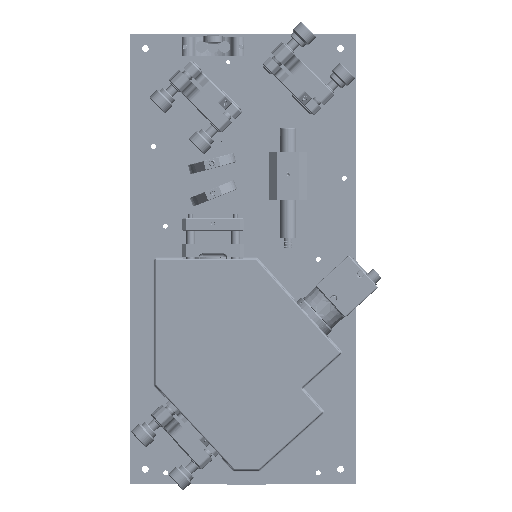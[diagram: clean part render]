
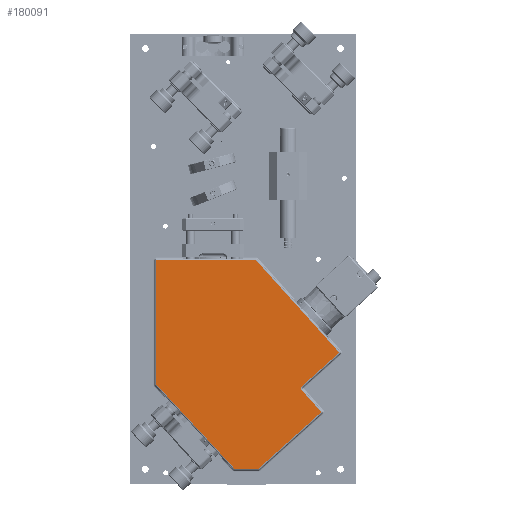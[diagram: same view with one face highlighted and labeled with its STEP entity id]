
A CAD part, left-side view. The second image highlights one B-rep face of the part: STEP entity #180091.
In plain terms, the highlighted planar face has unit normal (-1, 0, 0).
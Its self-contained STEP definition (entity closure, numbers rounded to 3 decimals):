
#366 = ORIENTED_EDGE ( 'NONE', *, *, #203781, .T. ) ;
#1250 = CARTESIAN_POINT ( 'NONE',  ( 1948., -1., -62.139 ) ) ;
#2418 = EDGE_CURVE ( 'NONE', #17677, #25500, #23094, .T. ) ;
#5597 = ORIENTED_EDGE ( 'NONE', *, *, #24285, .T. ) ;
#12871 = EDGE_LOOP ( 'NONE', ( #40763, #171560, #123091, #167560, #366, #218366, #230208, #5597, #34439 ) ) ;
#17677 = VERTEX_POINT ( 'NONE', #85485 ) ;
#18038 = DIRECTION ( 'NONE',  ( -1., 0., 0. ) ) ;
#23094 = LINE ( 'NONE', #24433, #211113 ) ;
#23304 = DIRECTION ( 'NONE',  ( 0., 0.669, 0.743 ) ) ;
#24285 = EDGE_CURVE ( 'NONE', #188100, #212852, #59929, .T. ) ;
#24433 = CARTESIAN_POINT ( 'NONE',  ( 1948., -53.286, -117.978 ) ) ;
#25500 = VERTEX_POINT ( 'NONE', #257694 ) ;
#31604 = DIRECTION ( 'NONE',  ( -1., 0., 0. ) ) ;
#34439 = ORIENTED_EDGE ( 'NONE', *, *, #127626, .T. ) ;
#40234 = LINE ( 'NONE', #119074, #42398 ) ;
#40763 = ORIENTED_EDGE ( 'NONE', *, *, #49576, .F. ) ;
#41134 = DIRECTION ( 'NONE',  ( 0., 0., 1. ) ) ;
#42398 = VECTOR ( 'NONE', #186895, 1000. ) ;
#42746 = CARTESIAN_POINT ( 'NONE',  ( 1948., -110.76, -79.959 ) ) ;
#44844 = DIRECTION ( 'NONE',  ( 0., -0.681, -0.732 ) ) ;
#47394 = LINE ( 'NONE', #1250, #192365 ) ;
#49576 = EDGE_CURVE ( 'NONE', #87274, #219669, #69019, .T. ) ;
#49864 = EDGE_CURVE ( 'NONE', #87274, #255667, #79840, .T. ) ;
#50998 = DIRECTION ( 'NONE',  ( 0., -1., 0. ) ) ;
#51999 = PLANE ( 'NONE',  #153526 ) ;
#56204 = VECTOR ( 'NONE', #265893, 1000. ) ;
#59460 = VECTOR ( 'NONE', #185606, 1000. ) ;
#59929 = LINE ( 'NONE', #266328, #123016 ) ;
#60686 = LINE ( 'NONE', #205955, #59460 ) ;
#61496 = CARTESIAN_POINT ( 'NONE',  ( 1948., -99.248, -64.196 ) ) ;
#65619 = CARTESIAN_POINT ( 'NONE',  ( 1948., -97.909, -62.71 ) ) ;
#69019 = CIRCLE ( 'NONE', #103709, 2. ) ;
#74371 = EDGE_CURVE ( 'NONE', #255667, #181286, #166001, .T. ) ;
#74380 = CARTESIAN_POINT ( 'NONE',  ( 1948., -97.762, -65.534 ) ) ;
#76013 = CARTESIAN_POINT ( 'NONE',  ( 1948., -67.386, 20.952 ) ) ;
#79840 = LINE ( 'NONE', #236511, #56204 ) ;
#85485 = CARTESIAN_POINT ( 'NONE',  ( 1948., -1., -61.746 ) ) ;
#87274 = VERTEX_POINT ( 'NONE', #65619 ) ;
#103709 = AXIS2_PLACEMENT_3D ( 'NONE', #61496, #18038, #41134 ) ;
#109520 = VECTOR ( 'NONE', #23304, 1000. ) ;
#110800 = CARTESIAN_POINT ( 'NONE',  ( 1948., -69.305, -117.659 ) ) ;
#114459 = FACE_OUTER_BOUND ( 'NONE', #12871, .T. ) ;
#119074 = CARTESIAN_POINT ( 'NONE',  ( 1948., -97.093, -64.791 ) ) ;
#123016 = VECTOR ( 'NONE', #203903, 1000. ) ;
#123091 = ORIENTED_EDGE ( 'NONE', *, *, #74371, .T. ) ;
#127626 = EDGE_CURVE ( 'NONE', #212852, #219669, #40234, .T. ) ;
#146617 = DIRECTION ( 'NONE',  ( 0., 0., -1. ) ) ;
#148957 = CARTESIAN_POINT ( 'NONE',  ( 1948., -1., 20.952 ) ) ;
#153526 = AXIS2_PLACEMENT_3D ( 'NONE', #216329, #31604, #193295 ) ;
#166001 = LINE ( 'NONE', #248769, #109520 ) ;
#167560 = ORIENTED_EDGE ( 'NONE', *, *, #227163, .T. ) ;
#171560 = ORIENTED_EDGE ( 'NONE', *, *, #49864, .T. ) ;
#175541 = CARTESIAN_POINT ( 'NONE',  ( 1948., -122.669, -40.399 ) ) ;
#180091 = ADVANCED_FACE ( 'NONE', ( #114459 ), #51999, .T. ) ;
#181286 = VERTEX_POINT ( 'NONE', #76013 ) ;
#183024 = CARTESIAN_POINT ( 'NONE',  ( 1948., -68.921, -117.659 ) ) ;
#185606 = DIRECTION ( 'NONE',  ( 0., 1., 0. ) ) ;
#186895 = DIRECTION ( 'NONE',  ( 0., 0.669, 0.743 ) ) ;
#188100 = VERTEX_POINT ( 'NONE', #183024 ) ;
#192365 = VECTOR ( 'NONE', #146617, 1000. ) ;
#192888 = VERTEX_POINT ( 'NONE', #148957 ) ;
#193295 = DIRECTION ( 'NONE',  ( 0., 0., 1. ) ) ;
#203781 = EDGE_CURVE ( 'NONE', #192888, #17677, #47394, .T. ) ;
#203903 = DIRECTION ( 'NONE',  ( 0., -0.743, 0.669 ) ) ;
#205955 = CARTESIAN_POINT ( 'NONE',  ( 1948., 0., 20.952 ) ) ;
#211113 = VECTOR ( 'NONE', #44844, 1000. ) ;
#212852 = VERTEX_POINT ( 'NONE', #42746 ) ;
#215336 = LINE ( 'NONE', #110800, #246489 ) ;
#216329 = CARTESIAN_POINT ( 'NONE',  ( 1948., 0., 0. ) ) ;
#218366 = ORIENTED_EDGE ( 'NONE', *, *, #2418, .T. ) ;
#219669 = VERTEX_POINT ( 'NONE', #74380 ) ;
#223975 = EDGE_CURVE ( 'NONE', #25500, #188100, #215336, .T. ) ;
#227163 = EDGE_CURVE ( 'NONE', #181286, #192888, #60686, .T. ) ;
#230208 = ORIENTED_EDGE ( 'NONE', *, *, #223975, .T. ) ;
#236511 = CARTESIAN_POINT ( 'NONE',  ( 1948., -123.412, -39.73 ) ) ;
#246489 = VECTOR ( 'NONE', #50998, 1000. ) ;
#248769 = CARTESIAN_POINT ( 'NONE',  ( 1948., -67.088, 21.283 ) ) ;
#255667 = VERTEX_POINT ( 'NONE', #175541 ) ;
#257694 = CARTESIAN_POINT ( 'NONE',  ( 1948., -52.989, -117.659 ) ) ;
#265893 = DIRECTION ( 'NONE',  ( 0., -0.743, 0.669 ) ) ;
#266328 = CARTESIAN_POINT ( 'NONE',  ( 1948., -111.503, -79.289 ) ) ;
